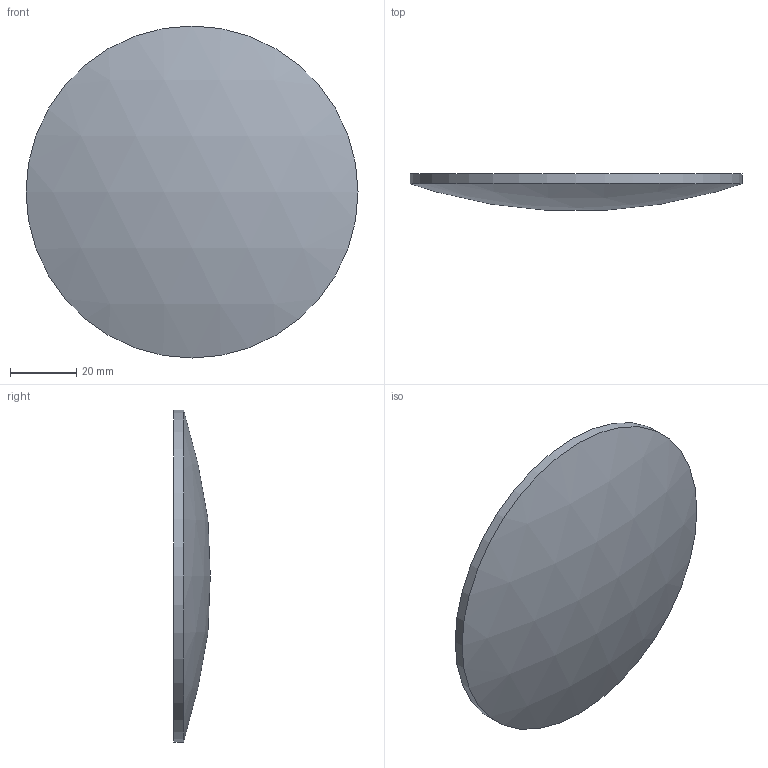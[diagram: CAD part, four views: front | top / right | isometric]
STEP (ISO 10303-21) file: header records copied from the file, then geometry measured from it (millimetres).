
FILE_DESCRIPTION((''),'2;1');
FILE_NAME('Y:\メカ関係\2能登便\素子ﾓﾃﾞﾙ（角屋さま野中さま⇒川島）\5月分\1_球面平凸レンズ-BK7\SLB-P\φ100\SLB-100-300P\SLB-100-300P.stp','2009-05-26T16:08:18',('usernoto011'),(''),'Autodesk Inventor 2008','Autodesk Inventor 2008','');
FILE_SCHEMA(('AUTOMOTIVE_DESIGN { 1 0 10303 214 1 1 1 1 }'));
Length unit declared in the file: millimetre
Products named in the file (1): SLB-100-300P
Bounding box: 100 x 10.97 x 100 mm (x, y, z)
Volume: 55873.5 mm3; surface area: 16849.5 mm2
Topology: 1 solids, 1 shells, 3 faces, 3 edges, 2 vertices
Faces by surface type: sphere 1, cylinder 1, plane 1
Full cylindrical faces by diameter (mm): 100 x1
Entity records: 80 total; most frequent: DIRECTION 12, CARTESIAN_POINT 8, AXIS2_PLACEMENT_3D 6, ORIENTED_EDGE 4, EDGE_LOOP 4, FACE_OUTER_BOUND 3, ADVANCED_FACE 3, DIMENSIONAL_EXPONENTS 2
